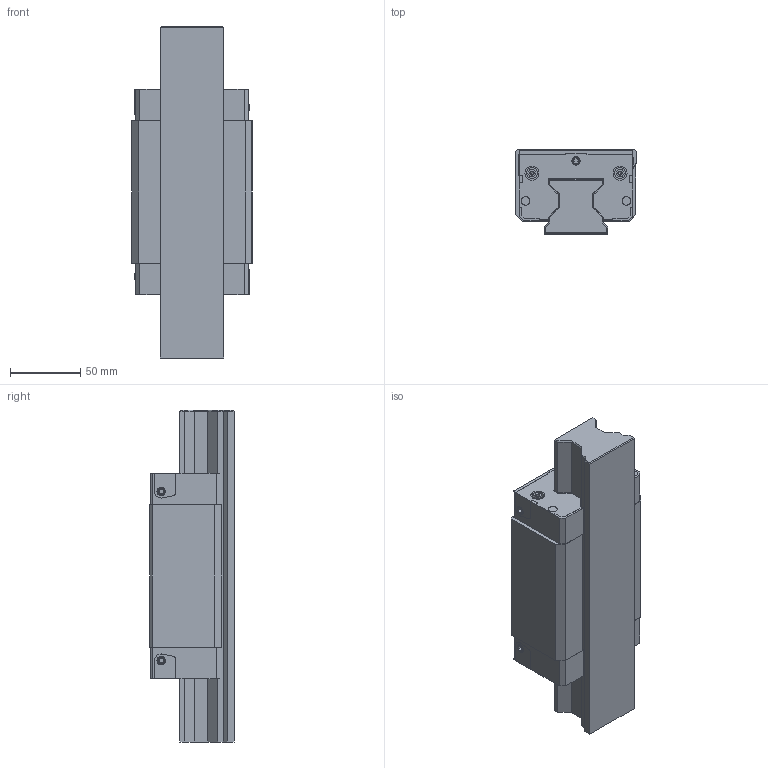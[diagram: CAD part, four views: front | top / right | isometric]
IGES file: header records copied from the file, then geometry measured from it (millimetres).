
Start section: 3D InterOp IGES (v. 2019 1.0.2), Spatial Corp. Copyright (c) 1999-2017.
Global section: file name: R1822_size45.igs; native system: Spatial Corp.; preprocessor: 3D InterOp GENERIC/IGES 3.0; author: Noname; organization: Noname; date: 20220630.112856; units: millimetre
Bounding box: 86 x 60 x 237 mm (x, y, z)
Surface area: 136844.2 mm2 (no closed solid volume)
Topology: 0 solids, 0 shells, 526 faces, 2740 edges, 2712 vertices
Faces by surface type: extrusion 326, revolution 200
